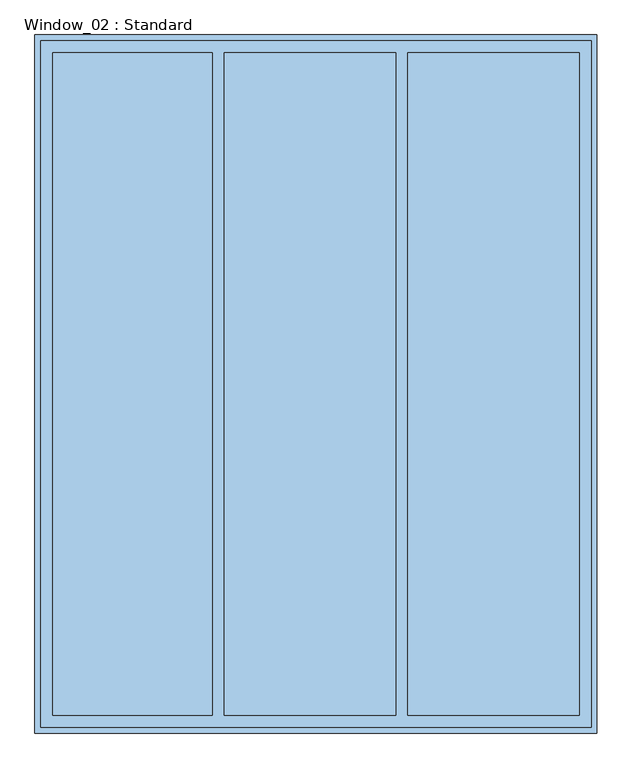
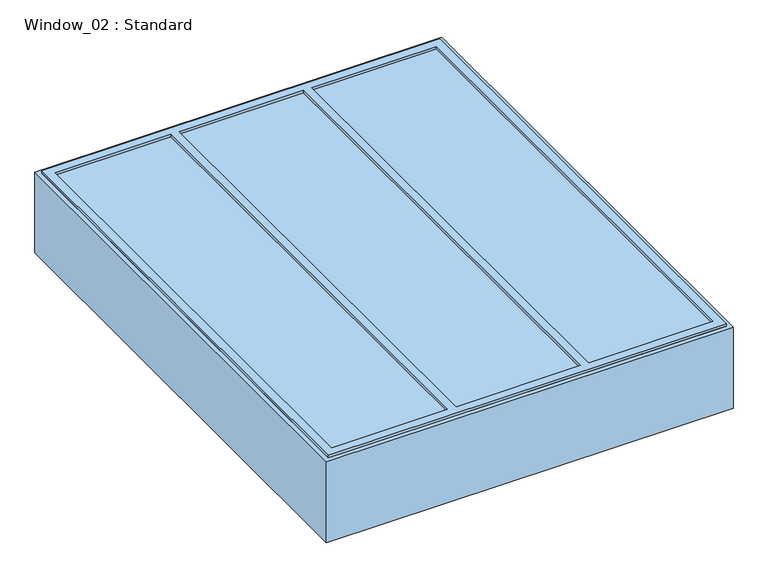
"""IFC4 building model written with IfcOpenShell, lengths in millimetres: window geometry, Window_02 : Standard."""

from ifc_helpers import new_model, si_unit, frame, origin, origin_with_axes, place, context, project, spatial, polyline, outline, extrude, source, transform, mapped, element, save


def window_02_standard_93dd7321(model_context):
    return source(origin(), model_context, "Body", "SweptSolid", [
        extrude(outline(polyline([(-930.0, -1160.0), (-930.0, 1160.0), (930.0, 1160.0), (930.0, -1160.0), (-930.0, -1160.0)]), holes=[polyline([(-890.0, 1120.0), (-890.0, -1120.0), (-350.0, -1120.0), (-350.0, 1120.0), (-890.0, 1120.0)]), polyline([(270.0, 1120.0), (-310.0, 1120.0), (-310.0, -1120.0), (270.0, -1120.0), (270.0, 1120.0)]), polyline([(310.0, -1120.0), (890.0, -1120.0), (890.0, 1120.0), (310.0, 1120.0), (310.0, -1120.0)])]), frame((0.0, 0.0, 395.094128), z_axis=(0.0, 0.0, 1.0), x_axis=(1.0, 0.0, 0.0)), (0.0, 0.0, 1.0), 17.0543259),
        extrude(outline(polyline([(-890.0, 1120.0), (890.0, 1120.0), (890.0, -1120.0), (-890.0, -1120.0), (-890.0, 1120.0)])), frame((0.0, 0.0, 395.094128), z_axis=(0.0, 0.0, 1.0), x_axis=(1.0, 0.0, 0.0)), (0.0, 0.0, 1.0), 4.905872),
        extrude(outline(polyline([(930.0, 1160.0), (930.0, -1160.0), (-930.0, -1160.0), (-930.0, 1160.0), (930.0, 1160.0)]), holes=[polyline([(-890.0, 1120.0), (-890.0, -1120.0), (890.0, -1120.0), (890.0, 1120.0), (-890.0, 1120.0)])]), frame((0.0, 0.0, 330.0), z_axis=(0.0, 0.0, 1.0), x_axis=(1.0, 0.0, 0.0)), (0.0, 0.0, 1.0), 70.0),
        extrude(outline(polyline([(950.0, 1180.0), (950.0, -1180.0), (-950.0, -1180.0), (-950.0, 1180.0), (950.0, 1180.0)]), holes=[polyline([(930.0, 1160.0), (-930.0, 1160.0), (-930.0, -1160.0), (930.0, -1160.0), (930.0, 1160.0)])]), origin_with_axes(), (0.0, 0.0, 1.0), 400.0),
    ])


if __name__ == "__main__":
    model = new_model("IFC4")
    model_context = context("Model", 3, world=origin())
    ifc_project = project(units=[si_unit("LENGTHUNIT", "METRE", prefix="MILLI")], contexts=[model_context])
    site = spatial("IfcSite", under=ifc_project)
    building = spatial("IfcBuilding", under=site)
    placement = place(None, origin())
    window_02_standard_shape = window_02_standard_93dd7321(model_context)
    element("IfcWindow", 1, ObjectType="Window_02 : Standard", at=placement, inside=building, context=model_context, shape_type="MappedRepresentation", body=[
        mapped(window_02_standard_shape, transform((0.0, 0.0, 0.0), x_axis=(1.0, 0.0, 0.0), y_axis=(0.0, 1.0, 0.0), z_axis=(0.0, 0.0, 1.0))),
    ])
    save(model, "model.ifc")
